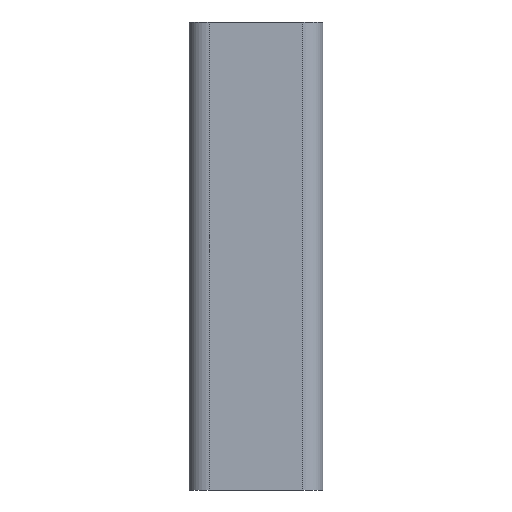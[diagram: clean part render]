
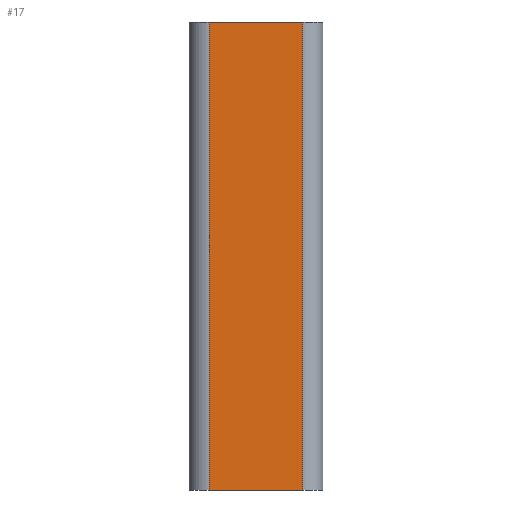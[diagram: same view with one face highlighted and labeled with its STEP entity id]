
A CAD part, front view. The second image highlights one B-rep face of the part: STEP entity #17.
In plain terms, the highlighted planar face has unit normal (0, -1, 0).
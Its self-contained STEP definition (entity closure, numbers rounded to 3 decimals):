
#17 = ADVANCED_FACE('',(#18),#32,.F.);
#18 = FACE_BOUND('',#19,.T.);
#19 = EDGE_LOOP('',(#20,#55,#83,#111));
#20 = ORIENTED_EDGE('',*,*,#21,.T.);
#21 = EDGE_CURVE('',#22,#24,#26,.T.);
#22 = VERTEX_POINT('',#23);
#23 = CARTESIAN_POINT('',(35.,-50.,0.));
#24 = VERTEX_POINT('',#25);
#25 = CARTESIAN_POINT('',(35.,-50.,350.));
#26 = SURFACE_CURVE('',#27,(#31,#43),.PCURVE_S1.);
#27 = LINE('',#28,#29);
#28 = CARTESIAN_POINT('',(35.,-50.,0.));
#29 = VECTOR('',#30,1.);
#30 = DIRECTION('',(-0.,-0.,1.));
#31 = PCURVE('',#32,#37);
#32 = PLANE('',#33);
#33 = AXIS2_PLACEMENT_3D('',#34,#35,#36);
#34 = CARTESIAN_POINT('',(35.,-50.,0.));
#35 = DIRECTION('',(-0.,1.,-0.));
#36 = DIRECTION('',(1.,0.,0.));
#37 = DEFINITIONAL_REPRESENTATION('',(#38),#42);
#38 = LINE('',#39,#40);
#39 = CARTESIAN_POINT('',(-0.,-0.));
#40 = VECTOR('',#41,1.);
#41 = DIRECTION('',(-0.,-1.));
#42 = ( GEOMETRIC_REPRESENTATION_CONTEXT(2) 
PARAMETRIC_REPRESENTATION_CONTEXT() REPRESENTATION_CONTEXT('2D SPACE',''
  ) );
#43 = PCURVE('',#44,#49);
#44 = CYLINDRICAL_SURFACE('',#45,15.);
#45 = AXIS2_PLACEMENT_3D('',#46,#47,#48);
#46 = CARTESIAN_POINT('',(35.,-35.,0.));
#47 = DIRECTION('',(0.,-0.,-1.));
#48 = DIRECTION('',(-1.,-0.,-0.));
#49 = DEFINITIONAL_REPRESENTATION('',(#50),#54);
#50 = LINE('',#51,#52);
#51 = CARTESIAN_POINT('',(4.712,0.));
#52 = VECTOR('',#53,1.);
#53 = DIRECTION('',(0.,-1.));
#54 = ( GEOMETRIC_REPRESENTATION_CONTEXT(2) 
PARAMETRIC_REPRESENTATION_CONTEXT() REPRESENTATION_CONTEXT('2D SPACE',''
  ) );
#55 = ORIENTED_EDGE('',*,*,#56,.T.);
#56 = EDGE_CURVE('',#24,#57,#59,.T.);
#57 = VERTEX_POINT('',#58);
#58 = CARTESIAN_POINT('',(-35.,-50.,350.));
#59 = SURFACE_CURVE('',#60,(#64,#71),.PCURVE_S1.);
#60 = LINE('',#61,#62);
#61 = CARTESIAN_POINT('',(35.,-50.,350.));
#62 = VECTOR('',#63,1.);
#63 = DIRECTION('',(-1.,-0.,-0.));
#64 = PCURVE('',#32,#65);
#65 = DEFINITIONAL_REPRESENTATION('',(#66),#70);
#66 = LINE('',#67,#68);
#67 = CARTESIAN_POINT('',(-0.,-350.));
#68 = VECTOR('',#69,1.);
#69 = DIRECTION('',(-1.,0.));
#70 = ( GEOMETRIC_REPRESENTATION_CONTEXT(2) 
PARAMETRIC_REPRESENTATION_CONTEXT() REPRESENTATION_CONTEXT('2D SPACE',''
  ) );
#71 = PCURVE('',#72,#77);
#72 = PLANE('',#73);
#73 = AXIS2_PLACEMENT_3D('',#74,#75,#76);
#74 = CARTESIAN_POINT('',(0.,0.,350.));
#75 = DIRECTION('',(-0.,-0.,1.));
#76 = DIRECTION('',(1.,0.,0.));
#77 = DEFINITIONAL_REPRESENTATION('',(#78),#82);
#78 = LINE('',#79,#80);
#79 = CARTESIAN_POINT('',(35.,-50.));
#80 = VECTOR('',#81,1.);
#81 = DIRECTION('',(-1.,0.));
#82 = ( GEOMETRIC_REPRESENTATION_CONTEXT(2) 
PARAMETRIC_REPRESENTATION_CONTEXT() REPRESENTATION_CONTEXT('2D SPACE',''
  ) );
#83 = ORIENTED_EDGE('',*,*,#84,.F.);
#84 = EDGE_CURVE('',#85,#57,#87,.T.);
#85 = VERTEX_POINT('',#86);
#86 = CARTESIAN_POINT('',(-35.,-50.,0.));
#87 = SURFACE_CURVE('',#88,(#92,#99),.PCURVE_S1.);
#88 = LINE('',#89,#90);
#89 = CARTESIAN_POINT('',(-35.,-50.,0.));
#90 = VECTOR('',#91,1.);
#91 = DIRECTION('',(-0.,-0.,1.));
#92 = PCURVE('',#32,#93);
#93 = DEFINITIONAL_REPRESENTATION('',(#94),#98);
#94 = LINE('',#95,#96);
#95 = CARTESIAN_POINT('',(-70.,0.));
#96 = VECTOR('',#97,1.);
#97 = DIRECTION('',(-0.,-1.));
#98 = ( GEOMETRIC_REPRESENTATION_CONTEXT(2) 
PARAMETRIC_REPRESENTATION_CONTEXT() REPRESENTATION_CONTEXT('2D SPACE',''
  ) );
#99 = PCURVE('',#100,#105);
#100 = CYLINDRICAL_SURFACE('',#101,15.);
#101 = AXIS2_PLACEMENT_3D('',#102,#103,#104);
#102 = CARTESIAN_POINT('',(-35.,-35.,0.));
#103 = DIRECTION('',(0.,-0.,-1.));
#104 = DIRECTION('',(-1.,-0.,-0.));
#105 = DEFINITIONAL_REPRESENTATION('',(#106),#110);
#106 = LINE('',#107,#108);
#107 = CARTESIAN_POINT('',(4.712,0.));
#108 = VECTOR('',#109,1.);
#109 = DIRECTION('',(0.,-1.));
#110 = ( GEOMETRIC_REPRESENTATION_CONTEXT(2) 
PARAMETRIC_REPRESENTATION_CONTEXT() REPRESENTATION_CONTEXT('2D SPACE',''
  ) );
#111 = ORIENTED_EDGE('',*,*,#112,.F.);
#112 = EDGE_CURVE('',#22,#85,#113,.T.);
#113 = SURFACE_CURVE('',#114,(#118,#125),.PCURVE_S1.);
#114 = LINE('',#115,#116);
#115 = CARTESIAN_POINT('',(35.,-50.,0.));
#116 = VECTOR('',#117,1.);
#117 = DIRECTION('',(-1.,-0.,-0.));
#118 = PCURVE('',#32,#119);
#119 = DEFINITIONAL_REPRESENTATION('',(#120),#124);
#120 = LINE('',#121,#122);
#121 = CARTESIAN_POINT('',(-0.,-0.));
#122 = VECTOR('',#123,1.);
#123 = DIRECTION('',(-1.,0.));
#124 = ( GEOMETRIC_REPRESENTATION_CONTEXT(2) 
PARAMETRIC_REPRESENTATION_CONTEXT() REPRESENTATION_CONTEXT('2D SPACE',''
  ) );
#125 = PCURVE('',#126,#131);
#126 = PLANE('',#127);
#127 = AXIS2_PLACEMENT_3D('',#128,#129,#130);
#128 = CARTESIAN_POINT('',(0.,0.,0.));
#129 = DIRECTION('',(-0.,-0.,1.));
#130 = DIRECTION('',(1.,0.,0.));
#131 = DEFINITIONAL_REPRESENTATION('',(#132),#136);
#132 = LINE('',#133,#134);
#133 = CARTESIAN_POINT('',(35.,-50.));
#134 = VECTOR('',#135,1.);
#135 = DIRECTION('',(-1.,0.));
#136 = ( GEOMETRIC_REPRESENTATION_CONTEXT(2) 
PARAMETRIC_REPRESENTATION_CONTEXT() REPRESENTATION_CONTEXT('2D SPACE',''
  ) );
